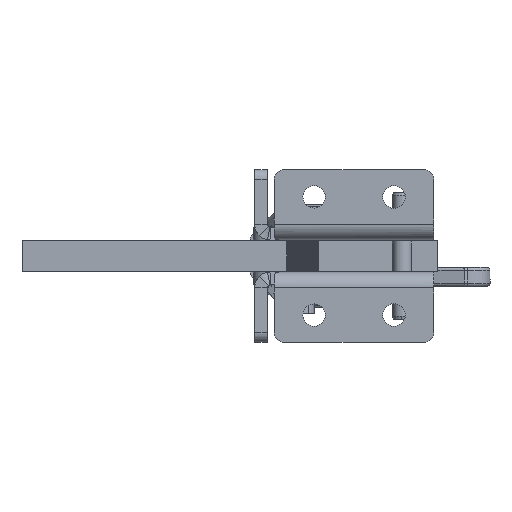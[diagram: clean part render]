
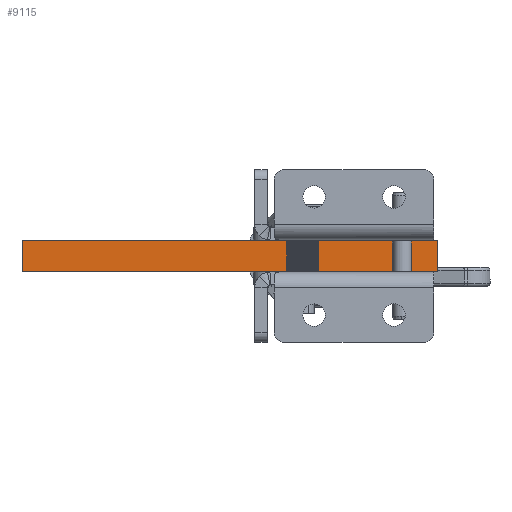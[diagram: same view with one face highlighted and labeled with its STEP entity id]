
A CAD part, front view. The second image highlights one B-rep face of the part: STEP entity #9115.
In plain terms, the highlighted planar face has unit normal (0, -1, 0).
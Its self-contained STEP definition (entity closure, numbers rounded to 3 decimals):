
#379 = EDGE_LOOP ( 'NONE', ( #17783, #10685, #2600, #26031 ) ) ;
#1233 = CARTESIAN_POINT ( 'NONE',  ( 130., 0., 10. ) ) ;
#2600 = ORIENTED_EDGE ( 'NONE', *, *, #17960, .F. ) ;
#6094 = VERTEX_POINT ( 'NONE', #19953 ) ;
#7447 = VERTEX_POINT ( 'NONE', #23083 ) ;
#9115 = ADVANCED_FACE ( 'NONE', ( #17089 ), #31898, .F. ) ;
#9799 = DIRECTION ( 'NONE',  ( 0., 0., -1. ) ) ;
#10685 = ORIENTED_EDGE ( 'NONE', *, *, #36143, .F. ) ;
#12554 = LINE ( 'NONE', #16436, #43982 ) ;
#16436 = CARTESIAN_POINT ( 'NONE',  ( 0., 0., 10. ) ) ;
#17089 = FACE_OUTER_BOUND ( 'NONE', #379, .T. ) ;
#17783 = ORIENTED_EDGE ( 'NONE', *, *, #21419, .T. ) ;
#17960 = EDGE_CURVE ( 'NONE', #7447, #24457, #12554, .T. ) ;
#19953 = CARTESIAN_POINT ( 'NONE',  ( 0., 0., 0. ) ) ;
#20801 = DIRECTION ( 'NONE',  ( 1., 0., 0. ) ) ;
#20830 = VERTEX_POINT ( 'NONE', #27560 ) ;
#21419 = EDGE_CURVE ( 'NONE', #6094, #20830, #44856, .T. ) ;
#21641 = LINE ( 'NONE', #46903, #32838 ) ;
#21768 = LINE ( 'NONE', #41685, #43022 ) ;
#23083 = CARTESIAN_POINT ( 'NONE',  ( 0., 0., 10. ) ) ;
#23394 = AXIS2_PLACEMENT_3D ( 'NONE', #28253, #43058, #9799 ) ;
#24457 = VERTEX_POINT ( 'NONE', #1233 ) ;
#26031 = ORIENTED_EDGE ( 'NONE', *, *, #42462, .T. ) ;
#27560 = CARTESIAN_POINT ( 'NONE',  ( 130., 0., 0. ) ) ;
#28253 = CARTESIAN_POINT ( 'NONE',  ( 0., 0., 10. ) ) ;
#31898 = PLANE ( 'NONE',  #23394 ) ;
#32838 = VECTOR ( 'NONE', #39875, 1000. ) ;
#33437 = DIRECTION ( 'NONE',  ( 1., 0., 0. ) ) ;
#36143 = EDGE_CURVE ( 'NONE', #24457, #20830, #21768, .T. ) ;
#37809 = CARTESIAN_POINT ( 'NONE',  ( 0., 0., 0. ) ) ;
#39875 = DIRECTION ( 'NONE',  ( 0., 0., -1. ) ) ;
#41685 = CARTESIAN_POINT ( 'NONE',  ( 130., 0., 10. ) ) ;
#41743 = VECTOR ( 'NONE', #33437, 1000. ) ;
#42462 = EDGE_CURVE ( 'NONE', #7447, #6094, #21641, .T. ) ;
#43022 = VECTOR ( 'NONE', #45078, 1000. ) ;
#43058 = DIRECTION ( 'NONE',  ( 0., 1., 0. ) ) ;
#43982 = VECTOR ( 'NONE', #20801, 1000. ) ;
#44856 = LINE ( 'NONE', #37809, #41743 ) ;
#45078 = DIRECTION ( 'NONE',  ( 0., 0., -1. ) ) ;
#46903 = CARTESIAN_POINT ( 'NONE',  ( 0., 0., 10. ) ) ;
